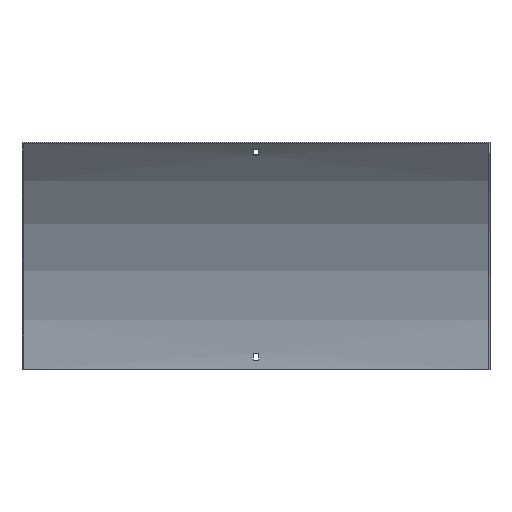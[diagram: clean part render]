
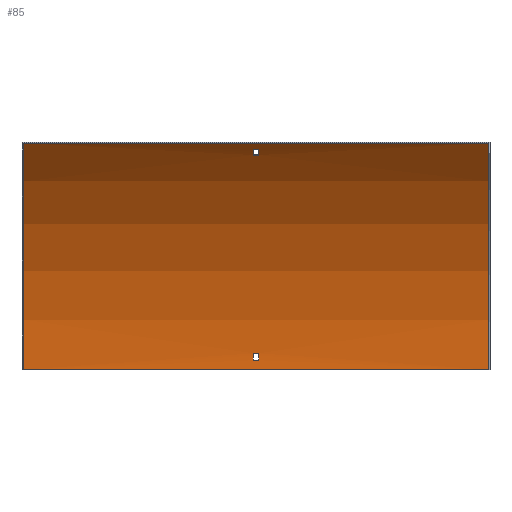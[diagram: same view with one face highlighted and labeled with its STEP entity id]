
A CAD part, front view. The second image highlights one B-rep face of the part: STEP entity #85.
In plain terms, the highlighted cylindrical face has radius 412.5 mm (diameter 825 mm), a partial arc.
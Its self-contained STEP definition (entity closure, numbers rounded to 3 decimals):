
#4 = FACE_BOUND ( 'NONE', #325, .T. ) ;
#7 = DIRECTION ( 'NONE',  ( 1., 0., 0. ) ) ;
#9 = LINE ( 'NONE', #154, #201 ) ;
#19 = EDGE_CURVE ( 'NONE', #468, #253, #427, .T. ) ;
#34 = DIRECTION ( 'NONE',  ( 1., 0., 0. ) ) ;
#45 = CARTESIAN_POINT ( 'NONE',  ( -3.25, -2.035, 21. ) ) ;
#50 = DIRECTION ( 'NONE',  ( -1., 0., 0. ) ) ;
#53 = ORIENTED_EDGE ( 'NONE', *, *, #418, .T. ) ;
#60 = FACE_OUTER_BOUND ( 'NONE', #295, .T. ) ;
#70 = VECTOR ( 'NONE', #237, 1000. ) ;
#71 = VERTEX_POINT ( 'NONE', #520 ) ;
#73 = CARTESIAN_POINT ( 'NONE',  ( -300., -1.5, 0. ) ) ;
#75 = ORIENTED_EDGE ( 'NONE', *, *, #227, .F. ) ;
#78 = CARTESIAN_POINT ( 'NONE',  ( 3.25, -414., 0. ) ) ;
#85 = ADVANCED_FACE ( 'NONE', ( #428, #60, #4 ), #242, .F. ) ;
#89 = EDGE_CURVE ( 'NONE', #155, #537, #107, .T. ) ;
#93 = EDGE_CURVE ( 'NONE', #71, #173, #9, .T. ) ;
#94 = VERTEX_POINT ( 'NONE', #432 ) ;
#97 = CARTESIAN_POINT ( 'NONE',  ( 3.25, -2.035, 21. ) ) ;
#104 = CARTESIAN_POINT ( 'NONE',  ( -3.25, -414., 0. ) ) ;
#107 = CIRCLE ( 'NONE', #577, 412.5 ) ;
#108 = VECTOR ( 'NONE', #353, 1000. ) ;
#113 = ORIENTED_EDGE ( 'NONE', *, *, #391, .T. ) ;
#122 = ORIENTED_EDGE ( 'NONE', *, *, #344, .T. ) ;
#126 = EDGE_LOOP ( 'NONE', ( #494, #250, #291, #297 ) ) ;
#133 = AXIS2_PLACEMENT_3D ( 'NONE', #78, #241, #302 ) ;
#137 = EDGE_CURVE ( 'NONE', #576, #155, #210, .T. ) ;
#138 = DIRECTION ( 'NONE',  ( 1., 0., 0. ) ) ;
#140 = ORIENTED_EDGE ( 'NONE', *, *, #137, .T. ) ;
#142 = DIRECTION ( 'NONE',  ( 0., 0., -1. ) ) ;
#154 = CARTESIAN_POINT ( 'NONE',  ( 300., -1.5, 0. ) ) ;
#155 = VERTEX_POINT ( 'NONE', #493 ) ;
#164 = DIRECTION ( 'NONE',  ( 0., 0., 1. ) ) ;
#173 = VERTEX_POINT ( 'NONE', #73 ) ;
#176 = LINE ( 'NONE', #455, #546 ) ;
#189 = DIRECTION ( 'NONE',  ( 0., 0., 1. ) ) ;
#201 = VECTOR ( 'NONE', #510, 1000. ) ;
#210 = LINE ( 'NONE', #245, #328 ) ;
#214 = VERTEX_POINT ( 'NONE', #321 ) ;
#227 = EDGE_CURVE ( 'NONE', #173, #214, #458, .T. ) ;
#228 = ORIENTED_EDGE ( 'NONE', *, *, #93, .F. ) ;
#231 = CIRCLE ( 'NONE', #288, 412.5 ) ;
#235 = LINE ( 'NONE', #426, #449 ) ;
#237 = DIRECTION ( 'NONE',  ( -1., 0., 0. ) ) ;
#238 = CARTESIAN_POINT ( 'NONE',  ( 301.5, -414., 0. ) ) ;
#240 = AXIS2_PLACEMENT_3D ( 'NONE', #282, #559, #463 ) ;
#241 = DIRECTION ( 'NONE',  ( 1., 0., 0. ) ) ;
#242 = CYLINDRICAL_SURFACE ( 'NONE', #448, 412.5 ) ;
#245 = CARTESIAN_POINT ( 'NONE',  ( 301.5, -113.957, 283.073 ) ) ;
#250 = ORIENTED_EDGE ( 'NONE', *, *, #19, .F. ) ;
#253 = VERTEX_POINT ( 'NONE', #45 ) ;
#259 = CARTESIAN_POINT ( 'NONE',  ( -300., -414., 0. ) ) ;
#262 = CIRCLE ( 'NONE', #240, 412.5 ) ;
#264 = CARTESIAN_POINT ( 'NONE',  ( 300., -414., 0. ) ) ;
#266 = VERTEX_POINT ( 'NONE', #414 ) ;
#275 = CIRCLE ( 'NONE', #133, 412.5 ) ;
#282 = CARTESIAN_POINT ( 'NONE',  ( -3.25, -414., 0. ) ) ;
#288 = AXIS2_PLACEMENT_3D ( 'NONE', #264, #34, #592 ) ;
#290 = DIRECTION ( 'NONE',  ( -1., 0., 0. ) ) ;
#291 = ORIENTED_EDGE ( 'NONE', *, *, #595, .F. ) ;
#295 = EDGE_LOOP ( 'NONE', ( #75, #228, #452, #113 ) ) ;
#297 = ORIENTED_EDGE ( 'NONE', *, *, #532, .F. ) ;
#302 = DIRECTION ( 'NONE',  ( 0., 0., -1. ) ) ;
#316 = EDGE_CURVE ( 'NONE', #71, #266, #231, .T. ) ;
#321 = CARTESIAN_POINT ( 'NONE',  ( -300., -122.318, 291.682 ) ) ;
#324 = DIRECTION ( 'NONE',  ( -1., 0., 0. ) ) ;
#325 = EDGE_LOOP ( 'NONE', ( #122, #53, #140, #584 ) ) ;
#328 = VECTOR ( 'NONE', #488, 1000. ) ;
#344 = EDGE_CURVE ( 'NONE', #537, #566, #176, .T. ) ;
#353 = DIRECTION ( 'NONE',  ( -1., 0., 0. ) ) ;
#359 = CARTESIAN_POINT ( 'NONE',  ( 300., -122.318, 291.682 ) ) ;
#360 = CIRCLE ( 'NONE', #441, 412.5 ) ;
#379 = CARTESIAN_POINT ( 'NONE',  ( 3.25, -414., 0. ) ) ;
#382 = CARTESIAN_POINT ( 'NONE',  ( 301.5, -2.035, 21. ) ) ;
#391 = EDGE_CURVE ( 'NONE', #266, #214, #593, .T. ) ;
#394 = CARTESIAN_POINT ( 'NONE',  ( -3.25, -107.847, 276.454 ) ) ;
#398 = DIRECTION ( 'NONE',  ( -1., 0., 0. ) ) ;
#414 = CARTESIAN_POINT ( 'NONE',  ( 300., -122.318, 291.682 ) ) ;
#418 = EDGE_CURVE ( 'NONE', #566, #576, #262, .T. ) ;
#426 = CARTESIAN_POINT ( 'NONE',  ( 301.5, -1.675, 12. ) ) ;
#427 = LINE ( 'NONE', #382, #70 ) ;
#428 = FACE_BOUND ( 'NONE', #126, .T. ) ;
#432 = CARTESIAN_POINT ( 'NONE',  ( 3.25, -1.675, 12. ) ) ;
#435 = VERTEX_POINT ( 'NONE', #461 ) ;
#441 = AXIS2_PLACEMENT_3D ( 'NONE', #104, #290, #164 ) ;
#448 = AXIS2_PLACEMENT_3D ( 'NONE', #238, #50, #189 ) ;
#449 = VECTOR ( 'NONE', #7, 1000. ) ;
#452 = ORIENTED_EDGE ( 'NONE', *, *, #316, .T. ) ;
#455 = CARTESIAN_POINT ( 'NONE',  ( 301.5, -107.847, 276.454 ) ) ;
#458 = CIRCLE ( 'NONE', #490, 412.5 ) ;
#461 = CARTESIAN_POINT ( 'NONE',  ( -3.25, -1.675, 12. ) ) ;
#463 = DIRECTION ( 'NONE',  ( 0., 0., -1. ) ) ;
#468 = VERTEX_POINT ( 'NONE', #97 ) ;
#488 = DIRECTION ( 'NONE',  ( 1., 0., 0. ) ) ;
#490 = AXIS2_PLACEMENT_3D ( 'NONE', #259, #138, #142 ) ;
#493 = CARTESIAN_POINT ( 'NONE',  ( 3.25, -113.957, 283.073 ) ) ;
#494 = ORIENTED_EDGE ( 'NONE', *, *, #540, .F. ) ;
#510 = DIRECTION ( 'NONE',  ( -1., 0., 0. ) ) ;
#519 = CARTESIAN_POINT ( 'NONE',  ( 3.25, -107.847, 276.454 ) ) ;
#520 = CARTESIAN_POINT ( 'NONE',  ( 300., -1.5, 0. ) ) ;
#532 = EDGE_CURVE ( 'NONE', #435, #94, #235, .T. ) ;
#536 = CARTESIAN_POINT ( 'NONE',  ( -3.25, -113.957, 283.073 ) ) ;
#537 = VERTEX_POINT ( 'NONE', #519 ) ;
#540 = EDGE_CURVE ( 'NONE', #253, #435, #360, .T. ) ;
#546 = VECTOR ( 'NONE', #398, 1000. ) ;
#559 = DIRECTION ( 'NONE',  ( 1., 0., 0. ) ) ;
#566 = VERTEX_POINT ( 'NONE', #394 ) ;
#569 = DIRECTION ( 'NONE',  ( 0., 0., 1. ) ) ;
#576 = VERTEX_POINT ( 'NONE', #536 ) ;
#577 = AXIS2_PLACEMENT_3D ( 'NONE', #379, #324, #569 ) ;
#584 = ORIENTED_EDGE ( 'NONE', *, *, #89, .T. ) ;
#592 = DIRECTION ( 'NONE',  ( 0., 0., -1. ) ) ;
#593 = LINE ( 'NONE', #359, #108 ) ;
#595 = EDGE_CURVE ( 'NONE', #94, #468, #275, .T. ) ;
